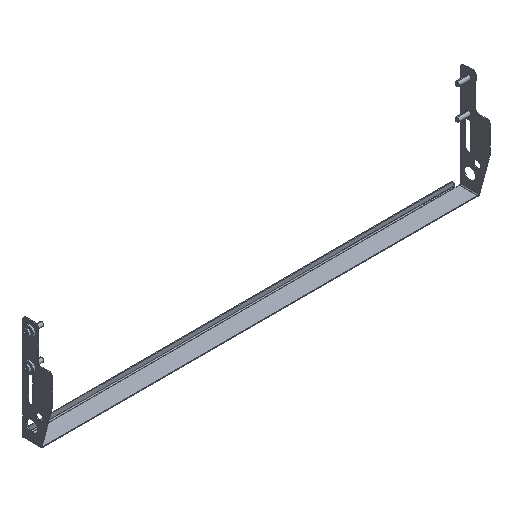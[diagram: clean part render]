
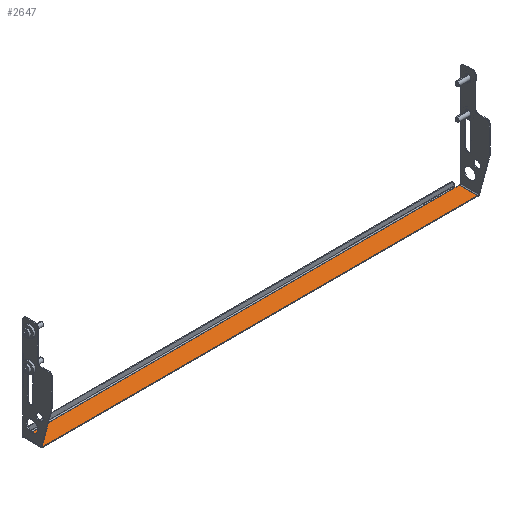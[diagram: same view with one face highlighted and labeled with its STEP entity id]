
A CAD part, isometric view. The second image highlights one B-rep face of the part: STEP entity #2647.
In plain terms, the highlighted planar face has unit normal (0, 0, 1).
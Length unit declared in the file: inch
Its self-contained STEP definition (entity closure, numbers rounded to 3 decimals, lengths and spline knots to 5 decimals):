
#1235=CARTESIAN_POINT('',(-12.3095,-0.22248,0.));
#1245=CARTESIAN_POINT('',(12.3095,-0.22248,0.));
#1251=DIRECTION('',(0.,1.,0.));
#1252=VECTOR('',#1251,1.03498);
#1253=CARTESIAN_POINT('',(-12.3095,-0.22248,0.));
#1254=LINE('',#1253,#1252);
#1255=DIRECTION('',(1.,0.,0.));
#1256=VECTOR('',#1255,24.619);
#1257=CARTESIAN_POINT('',(-12.3095,-0.22248,0.));
#1258=LINE('',#1257,#1256);
#1263=DIRECTION('',(1.,0.,0.));
#1264=VECTOR('',#1263,0.2645);
#1265=CARTESIAN_POINT('',(-12.3095,0.8125,0.));
#1266=LINE('',#1265,#1264);
#1641=DIRECTION('',(0.,-1.,0.));
#1642=VECTOR('',#1641,1.03498);
#1643=CARTESIAN_POINT('',(12.3095,0.8125,0.));
#1644=LINE('',#1643,#1642);
#1663=DIRECTION('',(1.,0.,0.));
#1664=VECTOR('',#1663,0.2645);
#1665=CARTESIAN_POINT('',(12.045,0.8125,0.));
#1666=LINE('',#1665,#1664);
#1749=DIRECTION('',(1.,0.,0.));
#1750=VECTOR('',#1749,24.09);
#1751=CARTESIAN_POINT('',(-12.045,0.8125,0.));
#1752=LINE('',#1751,#1750);
#2051=CARTESIAN_POINT('',(12.3095,0.8125,0.));
#2053=VERTEX_POINT('',#2051);
#2106=CARTESIAN_POINT('',(-12.045,0.8125,0.));
#2108=VERTEX_POINT('',#2106);
#2109=CARTESIAN_POINT('',(12.045,0.8125,0.));
#2110=VERTEX_POINT('',#2109);
#2212=CARTESIAN_POINT('',(-12.3095,0.8125,0.));
#2213=VERTEX_POINT('',#2212);
#2259=VERTEX_POINT('',#1245);
#2302=VERTEX_POINT('',#1235);
#2630=CARTESIAN_POINT('',(0.,0.,0.));
#2631=DIRECTION('',(0.,0.,1.));
#2632=DIRECTION('',(1.,0.,0.));
#2633=AXIS2_PLACEMENT_3D('',#2630,#2631,#2632);
#2634=PLANE('',#2633);
#2635=ORIENTED_EDGE('',*,*,#2596,.F.);
#2636=ORIENTED_EDGE('',*,*,#2624,.T.);
#2638=ORIENTED_EDGE('',*,*,#2637,.T.);
#2640=ORIENTED_EDGE('',*,*,#2639,.T.);
#2642=ORIENTED_EDGE('',*,*,#2641,.T.);
#2644=ORIENTED_EDGE('',*,*,#2643,.T.);
#2645=EDGE_LOOP('',(#2635,#2636,#2638,#2640,#2642,#2644));
#2646=FACE_OUTER_BOUND('',#2645,.F.);
#2596=EDGE_CURVE('',#2302,#2259,#1258,.T.);
#2624=EDGE_CURVE('',#2302,#2213,#1254,.T.);
#2637=EDGE_CURVE('',#2213,#2108,#1266,.T.);
#2639=EDGE_CURVE('',#2108,#2110,#1752,.T.);
#2641=EDGE_CURVE('',#2110,#2053,#1666,.T.);
#2643=EDGE_CURVE('',#2053,#2259,#1644,.T.);
#2647=ADVANCED_FACE('',(#2646),#2634,.T.);
